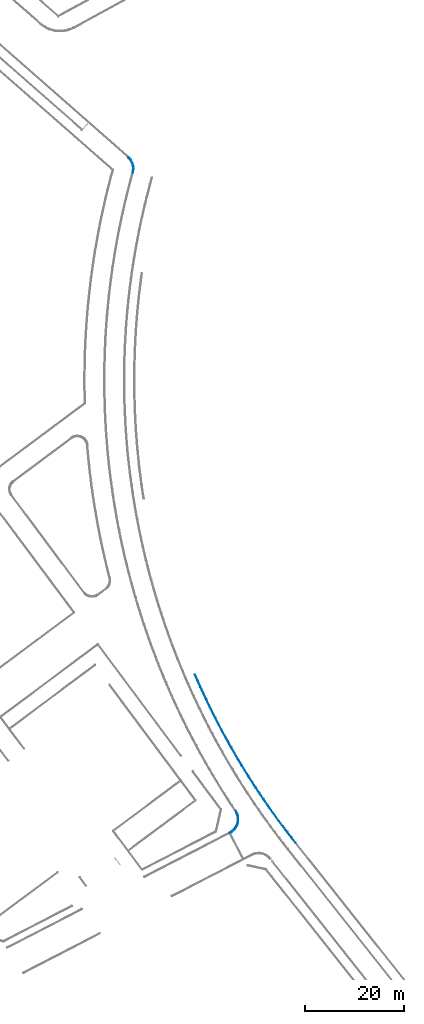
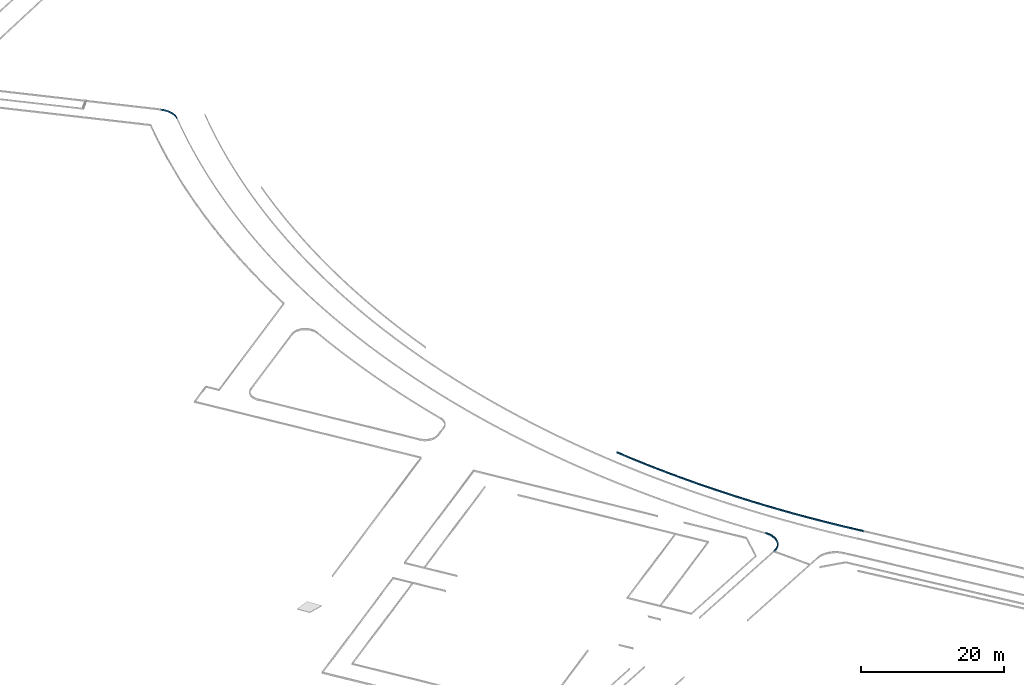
# One storey, part 20 of 24: 3 beams.
"""IFC2X3 building model written with IfcOpenShell, lengths in millimetres."""

from ifc_helpers import new_model, entity, si_unit, converted_unit, derived_unit, direction, frame, origin, place, context, subcontext, project, spatial, faceted_brep, material, type_object, element, save


model = new_model("IFC2X3")

# Units and contexts
model_context = context("Model", 3, precision=0.01, world=origin(), true_north=direction((6.123031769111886e-17, 1.0)))
body_context = subcontext(model_context, "Body", "Model", "MODEL_VIEW")
ifc_project = project(units=[si_unit("LENGTHUNIT", "METRE", prefix="MILLI"), si_unit("AREAUNIT", "SQUARE_METRE"), si_unit("VOLUMEUNIT", "CUBIC_METRE"), converted_unit("PLANEANGLEUNIT", "DEGREE", entity("IfcRatioMeasure", 0.017453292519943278), si_unit("PLANEANGLEUNIT", "RADIAN"), dimensions=[0, 0, 0, 0, 0, 0, 0]), si_unit("MASSUNIT", "GRAM", prefix="KILO"), derived_unit("MASSDENSITYUNIT", [(si_unit("MASSUNIT", "GRAM", prefix="KILO"), 1), (si_unit("LENGTHUNIT", "METRE"), -3)]), derived_unit("MOMENTOFINERTIAUNIT", [(si_unit("LENGTHUNIT", "METRE"), 4)]), si_unit("TIMEUNIT", "SECOND"), si_unit("FREQUENCYUNIT", "HERTZ"), si_unit("THERMODYNAMICTEMPERATUREUNIT", "DEGREE_CELSIUS"), derived_unit("THERMALTRANSMITTANCEUNIT", [(si_unit("MASSUNIT", "GRAM", prefix="KILO"), 1), (si_unit("THERMODYNAMICTEMPERATUREUNIT", "KELVIN"), -1), (si_unit("TIMEUNIT", "SECOND"), -3)]), derived_unit("THERMALCONDUCTANCEUNIT", [(si_unit("MASSUNIT", "GRAM", prefix="KILO"), 1), (si_unit("LENGTHUNIT", "METRE"), 1), (si_unit("THERMODYNAMICTEMPERATUREUNIT", "KELVIN"), -1), (si_unit("TIMEUNIT", "SECOND"), -3)]), derived_unit("VOLUMETRICFLOWRATEUNIT", [(si_unit("LENGTHUNIT", "METRE"), 3), (si_unit("TIMEUNIT", "SECOND"), -1)]), derived_unit("MASSFLOWRATEUNIT", [(si_unit("MASSUNIT", "GRAM", prefix="KILO"), 1), (si_unit("TIMEUNIT", "SECOND"), -1)]), derived_unit("ROTATIONALFREQUENCYUNIT", [(si_unit("TIMEUNIT", "SECOND"), -1)]), si_unit("ELECTRICCURRENTUNIT", "AMPERE"), si_unit("ELECTRICVOLTAGEUNIT", "VOLT"), si_unit("POWERUNIT", "WATT"), converted_unit("FORCEUNIT", "KIP", entity("IfcRatioMeasure", 2.088543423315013e-05), si_unit("FORCEUNIT", "NEWTON"), dimensions=[1, 1, -2, 0, 0, 0, 0]), si_unit("ILLUMINANCEUNIT", "LUX"), si_unit("LUMINOUSFLUXUNIT", "LUMEN"), si_unit("LUMINOUSINTENSITYUNIT", "CANDELA"), derived_unit("USERDEFINED", [(si_unit("MASSUNIT", "GRAM", prefix="KILO"), -1), (si_unit("LENGTHUNIT", "METRE"), -2), (si_unit("TIMEUNIT", "SECOND"), 3), (si_unit("LUMINOUSFLUXUNIT", "LUMEN"), 1)]), derived_unit("USERDEFINED", [(si_unit("MASSUNIT", "GRAM", prefix="KILO"), 1), (si_unit("LENGTHUNIT", "METRE"), 3), (si_unit("TIMEUNIT", "SECOND"), -3), (si_unit("ELECTRICCURRENTUNIT", "AMPERE"), -2)]), derived_unit("USERDEFINED", [(si_unit("LENGTHUNIT", "METRE"), 2), (si_unit("TIMEUNIT", "SECOND"), -2)]), derived_unit("SOUNDPOWERUNIT", [(si_unit("MASSUNIT", "GRAM", prefix="KILO"), 1), (si_unit("LENGTHUNIT", "METRE"), 2), (si_unit("TIMEUNIT", "SECOND"), -3)]), derived_unit("SOUNDPRESSUREUNIT", [(si_unit("MASSUNIT", "GRAM", prefix="KILO"), 1), (si_unit("LENGTHUNIT", "METRE"), -1), (si_unit("TIMEUNIT", "SECOND"), -2)]), derived_unit("LINEARVELOCITYUNIT", [(si_unit("LENGTHUNIT", "METRE"), 1), (si_unit("TIMEUNIT", "SECOND"), -1)]), si_unit("PRESSUREUNIT", "PASCAL"), derived_unit("USERDEFINED", [(si_unit("LENGTHUNIT", "METRE"), -2), (si_unit("MASSUNIT", "GRAM", prefix="KILO"), 1), (si_unit("TIMEUNIT", "SECOND"), -2)]), derived_unit("LINEARFORCEUNIT", [(si_unit("MASSUNIT", "GRAM", prefix="KILO"), 1), (si_unit("LENGTHUNIT", "METRE"), 1), (si_unit("TIMEUNIT", "SECOND"), -2), (si_unit("LENGTHUNIT", "METRE"), -1)]), derived_unit("PLANARFORCEUNIT", [(si_unit("MASSUNIT", "GRAM", prefix="KILO"), 1), (si_unit("LENGTHUNIT", "METRE"), 1), (si_unit("TIMEUNIT", "SECOND"), -2), (si_unit("LENGTHUNIT", "METRE"), -2)]), derived_unit("SPECIFICHEATCAPACITYUNIT", [(si_unit("LENGTHUNIT", "METRE"), 2), (si_unit("TIMEUNIT", "SECOND"), -2), (si_unit("THERMODYNAMICTEMPERATUREUNIT", "KELVIN"), -1)]), derived_unit("VAPORPERMEABILITYUNIT", [(si_unit("TIMEUNIT", "SECOND"), 1), (si_unit("LENGTHUNIT", "METRE"), -1)]), derived_unit("DYNAMICVISCOSITYUNIT", [(si_unit("MASSUNIT", "GRAM", prefix="KILO"), 1), (si_unit("LENGTHUNIT", "METRE"), -1), (si_unit("TIMEUNIT", "SECOND"), -1)]), derived_unit("THERMALEXPANSIONCOEFFICIENTUNIT", [(si_unit("THERMODYNAMICTEMPERATUREUNIT", "KELVIN"), -1)])], contexts=[model_context])

# Site, building, storey
site_placement = place(None, frame((0.0, 0.0, 0.0), z_axis=(0.0, 0.0, 1.0), x_axis=(0.8191520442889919, 0.5735764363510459, 0.0)))
site = spatial("IfcSite", under=ifc_project, at=site_placement, Name="Default", CompositionType="ELEMENT")
building_placement = place(site_placement, origin())
building = spatial("IfcBuilding", under=site, at=building_placement, CompositionType="ELEMENT")
storey_placement = place(building_placement, frame((0.0, 0.0, -1150.0)))
storey = spatial("IfcBuildingStorey", under=building, at=storey_placement, Name="6.EG KH -1.15", CompositionType="ELEMENT", Elevation=-1150.0000000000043)

# Beams
ifc_material = material(Name="Paveta_bordur")
beam_type_1 = type_object("IfcBeamType", Name="Beam-136", PredefinedType="NOTDEFINED")
beam_1_placement = place(storey_placement, frame((-159108.7903353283, -11644.076179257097, 910.0)))
element("IfcBeam", 1, at=beam_1_placement, inside=storey, type_object=beam_type_1, material=ifc_material, Name="Beam-136:Beam-136", ObjectType="Beam-136:Beam-136", context=body_context, shape_type="Brep", body=[
    faceted_brep([(3196.546416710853, 39335.49708615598, 250.0), (3196.546416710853, 39335.49708615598, 0.0), (3098.611017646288, 39355.71236775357, 0.0), (3098.611017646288, 39355.71236775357, 250.0), (272.09911174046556, 1.5952722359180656, 250.0), (272.09911174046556, 1.5952722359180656, 0.0), (371.9182241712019, 7.607326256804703, 0.0), (371.9182241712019, 7.607326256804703, 250.0), (135.93203805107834, 12274.089541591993, 0.0), (112.56402583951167, 10910.719298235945, 0.0), (101.5946604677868, 9547.192929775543, 0.0), (103.02484901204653, 8183.6231886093, 0.0), (116.85447320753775, 6820.122830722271, 0.0), (143.0823894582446, 5456.804606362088, 0.0), (181.7064289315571, 4093.7812507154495, 0.0), (232.72339773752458, 2731.1654745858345, 0.0), (296.12907719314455, 1369.069955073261, 0.0), (202.45528477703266, 1364.2825018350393, 0.0), (132.81145781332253, 2726.969731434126, 0.0), (87.96106337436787, 4090.6981466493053, 0.0), (43.11066893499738, 5454.426561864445, 0.0), (23.068541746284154, 6818.74509559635, 0.0), (3.0264145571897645, 8183.063629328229, 0.0), (7.799183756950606, 9547.521019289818, 0.0), (12.57195295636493, 10911.978409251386, 0.0), (42.15803990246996, 12276.123347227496, 0.0), (71.74412684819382, 13640.26828520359, 0.0), (126.13374564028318, 15003.649566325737, 0.0), (180.52336443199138, 16367.030847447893, 0.0), (259.69852514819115, 17729.1975194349, 0.0), (338.8736858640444, 19091.36419142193, 0.0), (436.62227556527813, 20452.338272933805, 0.0), (552.9240870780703, 21811.838415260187, 0.0), (669.2258985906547, 23171.33855758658, 0.0), (810.2324303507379, 24528.49879364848, 0.0), (951.2389621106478, 25885.659029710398, 0.0), (1116.9035747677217, 27240.030464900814, 0.0), (1282.5681874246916, 28594.40190009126, 0.0), (1472.836085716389, 29945.536562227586, 0.0), (1663.103984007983, 31296.671224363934, 0.0), (1877.9122348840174, 32644.12221185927, 0.0), (2092.7204857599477, 33991.573199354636, 0.0), (2331.9980391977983, 35334.8948290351, 0.0), (2571.275592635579, 36678.216458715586, 0.0), (2771.907366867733, 37696.9053789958, 0.0), (2926.9714648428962, 37998.83937761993, 0.0), (2669.562431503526, 36659.785579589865, 0.0), (2424.340602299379, 35318.4464207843, 0.0), (2191.3262550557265, 33974.932818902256, 0.0), (1970.5386581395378, 32629.355871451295, 0.0), (1761.9960688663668, 31281.82684656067, 0.0), (1565.7157319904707, 29932.457173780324, 0.0), (1381.7138782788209, 28581.358434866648, 0.0), (1210.0057231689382, 27228.64235455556, 0.0), (1050.6054655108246, 25874.42079132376, 0.0), (903.5262863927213, 24518.805728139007, 0.0), (768.7803480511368, 23161.909263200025, 0.0), (646.3787928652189, 21803.843600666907, 0.0), (536.3317424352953, 20444.721041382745, 0.0), (438.64829674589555, 19084.6539735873, 0.0), (353.336533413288, 17723.754863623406, 0.0), (280.4035070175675, 16362.136246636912, 0.0), (219.855248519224, 14999.910717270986, 0.0), (171.69676476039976, 13637.190920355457, 0.0), (2571.275592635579, 36678.216458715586, 250.0), (2834.943305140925, 38016.96441323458, 250.0), (1877.9122348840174, 32644.12221185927, 250.0), (2092.7204857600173, 33991.57319935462, 250.0), (1663.1039840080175, 31296.671224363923, 250.0), (2331.998039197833, 35334.8948290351, 250.0), (1116.9035747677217, 27240.030464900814, 250.0), (1282.5681874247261, 28594.401900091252, 250.0), (951.2389621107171, 25885.659029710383, 250.0), (552.9240870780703, 21811.838415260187, 250.0), (669.2258985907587, 23171.338557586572, 250.0), (436.6222755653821, 20452.338272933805, 250.0), (810.2324303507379, 24528.49879364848, 250.0), (1472.836085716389, 29945.536562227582, 250.0), (12.571952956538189, 10911.978409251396, 250.0), (42.15803990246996, 12276.123347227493, 250.0), (71.74412684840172, 13640.268285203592, 250.0), (338.87368586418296, 19091.36419142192, 250.0), (180.52336443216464, 16367.03084744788, 250.0), (259.69852514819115, 17729.1975194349, 250.0), (126.13374564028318, 15003.649566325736, 250.0), (43.11066893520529, 5454.426561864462, 250.0), (23.068541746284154, 6818.745095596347, 250.0), (3.026414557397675, 8183.063629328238, 250.0), (185.80533087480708, 1690.0641331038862, 250.0), (132.81145781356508, 2726.969731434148, 250.0), (87.96106337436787, 4090.698146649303, 250.0), (7.799183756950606, 9547.52101928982, 250.0), (171.69676476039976, 13637.190920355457, 250.0), (219.855248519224, 14999.910717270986, 250.0), (280.4035070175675, 16362.136246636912, 250.0), (353.336533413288, 17723.754863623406, 250.0), (438.64829674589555, 19084.6539735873, 250.0), (536.3317424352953, 20444.721041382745, 250.0), (646.3787928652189, 21803.843600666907, 250.0), (768.7803480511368, 23161.909263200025, 250.0), (903.5262863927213, 24518.805728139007, 250.0), (1050.6054655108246, 25874.42079132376, 250.0), (1210.0057231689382, 27228.64235455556, 250.0), (1381.7138782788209, 28581.358434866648, 250.0), (1565.7157319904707, 29932.457173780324, 250.0), (1761.9960688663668, 31281.82684656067, 250.0), (1970.5386581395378, 32629.355871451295, 250.0), (2191.3262550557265, 33974.932818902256, 250.0), (2424.340602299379, 35318.4464207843, 250.0), (2669.562431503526, 36659.785579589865, 250.0), (2926.9714648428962, 37998.83937761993, 250.0), (296.12907719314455, 1369.069955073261, 250.0), (232.72339773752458, 2731.1654745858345, 250.0), (181.7064289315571, 4093.7812507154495, 250.0), (143.0823894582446, 5456.804606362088, 250.0), (116.85447320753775, 6820.122830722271, 250.0), (103.02484901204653, 8183.6231886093, 250.0), (101.5946604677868, 9547.192929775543, 250.0), (112.56402583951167, 10910.719298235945, 250.0), (135.93203805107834, 12274.089541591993, 250.0)], [[[0, 1, 2, 3]], [[4, 5, 6, 7]], [[8, 9, 10, 11, 12, 13, 14, 15, 16, 6, 5, 17, 18, 19, 20, 21, 22, 23, 24, 25, 26, 27, 28, 29, 30, 31, 32, 33, 34, 35, 36, 37, 38, 39, 40, 41, 42, 43, 44, 2, 1, 45, 46, 47, 48, 49, 50, 51, 52, 53, 54, 55, 56, 57, 58, 59, 60, 61, 62, 63]], [[2, 44, 43, 64, 65, 3]], [[66, 67, 41, 40, 39, 68]], [[69, 64, 43, 42, 41, 67]], [[70, 71, 37, 36, 35, 72]], [[73, 74, 33, 32, 31, 75]], [[76, 72, 35, 34, 33, 74]], [[77, 68, 39, 38, 37, 71]], [[24, 78, 79, 80, 26, 25]], [[81, 30, 29, 28, 82, 83]], [[26, 80, 84, 82, 28, 27]], [[20, 85, 86, 87, 22, 21]], [[31, 30, 81, 75]], [[17, 5, 4, 88, 89, 18]], [[90, 85, 20, 19, 18, 89]], [[91, 78, 24, 23, 22, 87]], [[92, 93, 94, 95, 96, 97, 98, 99, 100, 101, 102, 103, 104, 105, 106, 107, 108, 109, 110, 0, 3, 65, 64, 69, 67, 66, 68, 77, 71, 70, 72, 76, 74, 73, 75, 81, 83, 82, 84, 80, 79, 78, 91, 87, 86, 85, 90, 89, 88, 4, 7, 111, 112, 113, 114, 115, 116, 117, 118, 119]], [[45, 1, 0, 110]], [[45, 110, 109, 46]], [[108, 107, 48, 47]], [[106, 105, 50, 49]], [[107, 106, 49, 48]], [[47, 46, 109, 108]], [[104, 103, 52, 51]], [[102, 101, 54, 53]], [[103, 102, 53, 52]], [[100, 99, 56, 55]], [[98, 97, 58, 57]], [[99, 98, 57, 56]], [[101, 100, 55, 54]], [[105, 104, 51, 50]], [[97, 96, 59, 58]], [[95, 94, 61, 60]], [[96, 95, 60, 59]], [[93, 92, 63, 62]], [[119, 118, 9, 8]], [[92, 119, 8, 63]], [[94, 93, 62, 61]], [[117, 116, 11, 10]], [[115, 114, 13, 12]], [[116, 115, 12, 11]], [[113, 112, 15, 14]], [[111, 7, 6, 16]], [[112, 111, 16, 15]], [[114, 113, 14, 13]], [[118, 117, 10, 9]]]),
])
beam_type_2 = type_object("IfcBeamType", Name="Beam-136", PredefinedType="NOTDEFINED")
beam_2_placement = place(storey_placement, frame((-108208.27270619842, 117803.58487871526, 910.0)))
element("IfcBeam", 2, at=beam_2_placement, inside=storey, type_object=beam_type_2, material=ifc_material, Name="Beam-136 266104:Beam-136 266104", ObjectType="Beam-136 266104:Beam-136 266104", context=body_context, shape_type="Brep", body=[
    faceted_brep([(993.8637452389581, 3053.3693192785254, 0.0), (993.8637452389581, 3053.3693192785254, 250.0), (1091.036372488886, 3076.9803445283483, 250.0), (1091.036372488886, 3076.9803445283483, 0.0), (65.13168006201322, 1.5952722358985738, 250.0), (1.5952722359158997, 78.81654443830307, 250.0), (1.5952722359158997, 78.81654443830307, 0.0), (65.13168006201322, 1.5952722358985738, 0.0), (1031.6472183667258, 2873.661435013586, 250.0), (1031.6472183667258, 2873.661435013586, 0.0), (1073.3476659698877, 2508.941741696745, 0.0), (1073.3476659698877, 2508.941741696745, 250.0), (1058.1761254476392, 2691.9508640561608, 250.0), (1058.1761254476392, 2691.9508640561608, 0.0), (1050.3514318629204, 1959.2234009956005, 250.0), (1050.3514318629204, 1959.2234009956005, 0.0), (1019.9480939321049, 1778.1208014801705, 0.0), (1019.9480939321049, 1778.1208014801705, 250.0), (1069.4277242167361, 2141.866795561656, 250.0), (1069.4277242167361, 2141.866795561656, 0.0), (1077.1030496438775, 2325.3432351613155, 250.0), (1077.1030496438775, 2325.3432351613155, 0.0), (978.3355245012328, 1599.2607763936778, 0.0), (978.3355245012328, 1599.2607763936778, 250.0), (925.674973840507, 1423.3364150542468, 0.0), (925.674973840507, 1423.3364150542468, 250.0), (703.655200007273, 919.9217739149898, 250.0), (788.0681958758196, 1083.007520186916, 250.0), (788.0681958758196, 1083.007520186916, 0.0), (703.655200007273, 919.9217739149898, 0.0), (862.1705035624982, 1251.0294309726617, 250.0), (862.1705035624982, 1251.0294309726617, 0.0), (609.2586194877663, 762.4041555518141, 250.0), (609.2586194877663, 762.4041555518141, 0.0), (139.70178695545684, 199.85003195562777, 0.0), (139.70178695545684, 199.85003195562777, 250.0), (270.01005769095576, 329.2419524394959, 250.0), (270.01005769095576, 329.2419524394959, 0.0), (392.0151349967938, 466.4909073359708, 250.0), (505.2442446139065, 611.0650517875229, 250.0), (505.2442446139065, 611.0650517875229, 0.0), (392.0151349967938, 466.4909073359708, 0.0), (790.9902494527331, 871.2125433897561, 250.0), (954.8789531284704, 1213.544188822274, 250.0), (1074.9817713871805, 1573.5799866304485, 250.0), (1149.4388959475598, 1945.7447341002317, 250.0), (1177.0973482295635, 2324.275410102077, 250.0), (1157.5288333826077, 2703.3104162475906, 250.0), (342.6452718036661, 260.50967711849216, 250.0), (585.8534989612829, 551.8861018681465, 250.0), (1157.5288333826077, 2703.3104162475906, 0.0), (1149.4388959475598, 1945.7447341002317, 0.0), (1177.0973482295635, 2324.275410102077, 0.0), (1074.9817713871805, 1573.5799866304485, 0.0), (954.8789531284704, 1213.544188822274, 0.0), (790.9902494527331, 871.2125433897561, 0.0), (342.6452718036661, 260.50967711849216, 0.0), (585.8534989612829, 551.8861018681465, 0.0)], [[[0, 1, 2, 3]], [[4, 5, 6, 7]], [[8, 1, 0, 9]], [[10, 11, 12, 13]], [[12, 8, 9, 13]], [[14, 15, 16, 17]], [[14, 18, 19, 15]], [[19, 18, 20, 21]], [[22, 23, 17, 16]], [[10, 21, 20, 11]], [[22, 24, 25, 23]], [[26, 27, 28, 29]], [[27, 30, 31, 28]], [[32, 26, 29, 33]], [[34, 35, 36, 37]], [[38, 39, 40, 41]], [[36, 38, 41, 37]], [[40, 39, 32, 33]], [[5, 35, 34, 6]], [[24, 31, 30, 25]], [[42, 43, 44, 45, 46, 47, 2, 1, 8, 12, 11, 20, 18, 14, 17, 23, 25, 30, 27, 26, 32, 39, 38, 36, 35, 5, 4, 48, 49]], [[2, 47, 50, 3]], [[51, 52, 46, 45]], [[53, 51, 45, 44]], [[47, 46, 52, 50]], [[44, 43, 54, 53]], [[55, 54, 43, 42]], [[56, 57, 49, 48]], [[42, 49, 57, 55]], [[7, 56, 48, 4]], [[33, 29, 28, 31, 24, 22, 16, 15, 19, 21, 10, 13, 9, 0, 3, 50, 52, 51, 53, 54, 55, 57, 56, 7, 6, 34, 37, 41, 40]]]),
])
beam_type_3 = type_object("IfcBeamType", Name="Beam-166", PredefinedType="NOTDEFINED")
beam_3_placement = place(storey_placement, frame((-168520.3459593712, -2488.8677892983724, 910.0)))
element("IfcBeam", 3, at=beam_3_placement, inside=storey, type_object=beam_type_3, material=ifc_material, Name="Beam-166 266109:Beam-166 266109", ObjectType="Beam-166 266109:Beam-166 266109", context=body_context, shape_type="Brep", body=[
    faceted_brep([(17.692538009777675, 138.8377936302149, 250.0), (17.692538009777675, 138.8377936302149, 0.0), (1.5952722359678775, 40.141907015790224, 0.0), (1.5952722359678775, 40.141907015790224, 250.0), (3543.501168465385, 2990.226489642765, 0.0), (3443.5214586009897, 2992.2408420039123, 0.0), (3443.5214586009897, 2992.2408420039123, 250.0), (3543.501168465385, 2990.226489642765, 250.0), (2913.864429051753, 1194.534759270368, 0.0), (2791.2961386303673, 1044.827005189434, 0.0), (2659.48621935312, 903.1882300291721, 0.0), (2518.9646380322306, 770.1879193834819, 0.0), (2370.2963883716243, 646.360826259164, 0.0), (2214.0792193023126, 532.2048209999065, 0.0), (2050.941231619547, 428.1788895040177, 0.0), (1881.5383525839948, 334.7012877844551, 0.0), (1706.5516986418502, 252.14786029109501, 0.0), (1526.6848368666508, 180.85052875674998, 0.0), (1342.6609561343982, 121.0959576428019, 0.0), (1155.2199594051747, 73.12440155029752, 0.0), (965.1154888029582, 37.128739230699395, 0.0), (773.1118954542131, 13.253698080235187, 0.0), (579.9811662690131, 1.5952722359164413, 0.0), (386.4998200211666, 2.200336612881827, 0.0), (193.44578520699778, 15.066458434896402, 0.0), (203.25563737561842, 114.58412922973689, 0.0), (389.9828162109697, 102.1396618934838, 0.0), (577.1233024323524, 101.55442696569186, 0.0), (763.9246621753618, 112.83077749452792, 0.0), (949.6358250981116, 135.92337477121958, 0.0), (1133.5101042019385, 170.73937062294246, 0.0), (1314.808198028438, 217.13878072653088, 0.0), (1492.8011631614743, 274.93504744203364, 0.0), (1666.7733450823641, 343.8957899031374, 0.0), (1836.0252555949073, 423.74373834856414, 0.0), (1999.8763852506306, 514.1578489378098, 0.0), (2157.6679394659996, 614.7745945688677, 0.0), (2308.765487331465, 725.1894265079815, 0.0), (2452.561512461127, 844.9584009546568, 0.0), (2588.4778556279, 973.5999640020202, 0.0), (2715.968039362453, 1110.5968878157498, 0.0), (2834.519465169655, 1255.398350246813, 0.0), (2943.6554745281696, 1407.4221495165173, 0.0), (3042.9372653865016, 1566.0570450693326, 0.0), (3131.9656564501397, 1730.6652151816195, 0.0), (3210.38269216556, 1900.584821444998, 0.0), (3277.873081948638, 2075.132669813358, 0.0), (3334.165467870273, 2253.6069575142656, 0.0), (3379.033515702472, 2435.2900947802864, 0.0), (3412.2968249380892, 2619.4515900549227, 0.0), (3433.821654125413, 2805.3509870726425, 0.0), (3533.4727066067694, 2797.004266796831, 0.0), (3511.218554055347, 2604.806061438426, 0.0), (3476.8281878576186, 2414.4046429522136, 0.0), (3430.439881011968, 2226.5655564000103, 0.0), (3372.240146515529, 2042.0440445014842, 0.0), (3302.462987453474, 1861.582011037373, 0.0), (3221.3889561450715, 1685.9050378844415, 0.0), (3129.344026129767, 1515.7194676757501, 0.0), (3026.6982815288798, 1351.7095638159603, 0.0), (193.44578520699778, 15.066458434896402, 250.0), (386.4998200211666, 2.200336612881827, 250.0), (579.9811662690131, 1.5952722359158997, 250.0), (965.1154888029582, 37.12873923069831, 250.0), (1155.2199594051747, 73.12440155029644, 250.0), (773.1118954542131, 13.253698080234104, 250.0), (2050.941231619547, 428.17888950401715, 250.0), (1881.5383525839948, 334.701287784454, 250.0), (2214.0792193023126, 532.2048209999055, 250.0), (1342.6609561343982, 121.09595764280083, 250.0), (1526.6848368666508, 180.85052875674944, 250.0), (1706.5516986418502, 252.14786029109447, 250.0), (2370.2963883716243, 646.3608262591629, 250.0), (2518.9646380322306, 770.1879193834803, 250.0), (3026.6982815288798, 1351.7095638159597, 250.0), (2913.864429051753, 1194.5347592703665, 250.0), (3129.344026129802, 1515.7194676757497, 250.0), (2659.48621935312, 903.1882300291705, 250.0), (2791.2961386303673, 1044.8270051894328, 250.0), (3221.3889561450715, 1685.9050378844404, 250.0), (3476.828187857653, 2414.404642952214, 250.0), (3511.218554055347, 2604.8060614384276, 250.0), (3533.4727066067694, 2797.0042667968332, 250.0), (3302.462987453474, 1861.582011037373, 250.0), (3372.240146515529, 2042.0440445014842, 250.0), (3430.439881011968, 2226.5655564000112, 250.0), (3433.821654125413, 2805.3509870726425, 250.0), (3412.2968249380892, 2619.4515900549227, 250.0), (3379.033515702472, 2435.2900947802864, 250.0), (3334.165467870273, 2253.6069575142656, 250.0), (3277.873081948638, 2075.132669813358, 250.0), (3210.38269216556, 1900.584821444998, 250.0), (3131.9656564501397, 1730.6652151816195, 250.0), (3042.9372653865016, 1566.0570450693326, 250.0), (2943.6554745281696, 1407.4221495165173, 250.0), (2834.519465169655, 1255.398350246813, 250.0), (2715.968039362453, 1110.5968878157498, 250.0), (2588.4778556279, 973.5999640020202, 250.0), (2452.561512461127, 844.9584009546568, 250.0), (2308.765487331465, 725.1894265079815, 250.0), (2157.6679394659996, 614.7745945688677, 250.0), (1999.8763852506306, 514.1578489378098, 250.0), (1836.0252555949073, 423.74373834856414, 250.0), (1666.7733450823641, 343.8957899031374, 250.0), (1492.8011631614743, 274.93504744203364, 250.0), (1314.808198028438, 217.13878072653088, 250.0), (1133.5101042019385, 170.73937062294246, 250.0), (949.6358250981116, 135.92337477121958, 250.0), (763.9246621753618, 112.83077749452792, 250.0), (577.1233024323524, 101.55442696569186, 250.0), (389.9828162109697, 102.1396618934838, 250.0), (203.25563737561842, 114.58412922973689, 250.0)], [[[0, 1, 2, 3]], [[4, 5, 6, 7]], [[8, 9, 10, 11, 12, 13, 14, 15, 16, 17, 18, 19, 20, 21, 22, 23, 24, 2, 1, 25, 26, 27, 28, 29, 30, 31, 32, 33, 34, 35, 36, 37, 38, 39, 40, 41, 42, 43, 44, 45, 46, 47, 48, 49, 50, 5, 4, 51, 52, 53, 54, 55, 56, 57, 58, 59]], [[24, 60, 3, 2]], [[23, 61, 60, 24]], [[23, 22, 62, 61]], [[63, 20, 19, 64]], [[63, 65, 21, 20]], [[22, 21, 65, 62]], [[14, 66, 67, 15]], [[66, 14, 13, 68]], [[69, 18, 17, 70]], [[17, 16, 71, 70]], [[71, 16, 15, 67]], [[64, 19, 18, 69]], [[68, 13, 12, 72]], [[12, 11, 73, 72]], [[59, 74, 75, 8]], [[58, 76, 74, 59]], [[73, 11, 10, 77]], [[77, 10, 9, 78]], [[8, 75, 78, 9]], [[76, 58, 57, 79]], [[80, 53, 52, 81]], [[81, 52, 51, 82]], [[83, 56, 55, 84]], [[55, 54, 85, 84]], [[85, 54, 53, 80]], [[79, 57, 56, 83]], [[82, 51, 4, 7]], [[74, 76, 79, 83, 84, 85, 80, 81, 82, 7, 6, 86, 87, 88, 89, 90, 91, 92, 93, 94, 95, 96, 97, 98, 99, 100, 101, 102, 103, 104, 105, 106, 107, 108, 109, 110, 111, 0, 3, 60, 61, 62, 65, 63, 64, 69, 70, 71, 67, 66, 68, 72, 73, 77, 78, 75]], [[1, 0, 111, 25]], [[25, 111, 110, 26]], [[109, 27, 26, 110]], [[30, 29, 107, 106]], [[29, 28, 108, 107]], [[109, 108, 28, 27]], [[35, 34, 102, 101]], [[36, 35, 101, 100]], [[32, 31, 105, 104]], [[104, 103, 33, 32]], [[34, 33, 103, 102]], [[31, 30, 106, 105]], [[36, 100, 99, 37]], [[99, 98, 38, 37]], [[41, 95, 94, 42]], [[42, 94, 93, 43]], [[39, 38, 98, 97]], [[40, 39, 97, 96]], [[40, 96, 95, 41]], [[44, 43, 93, 92]], [[49, 48, 88, 87]], [[50, 49, 87, 86]], [[46, 45, 91, 90]], [[90, 89, 47, 46]], [[48, 47, 89, 88]], [[45, 44, 92, 91]], [[5, 50, 86, 6]]]),
])

save(model, "model.ifc")
